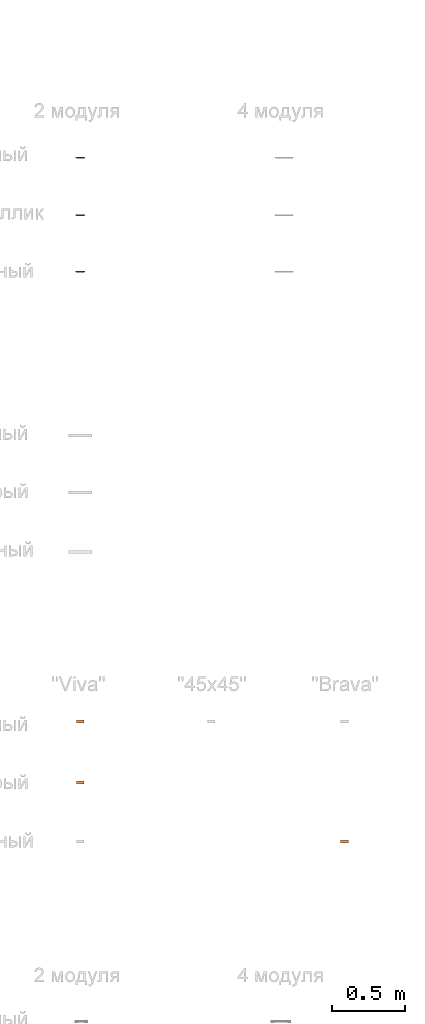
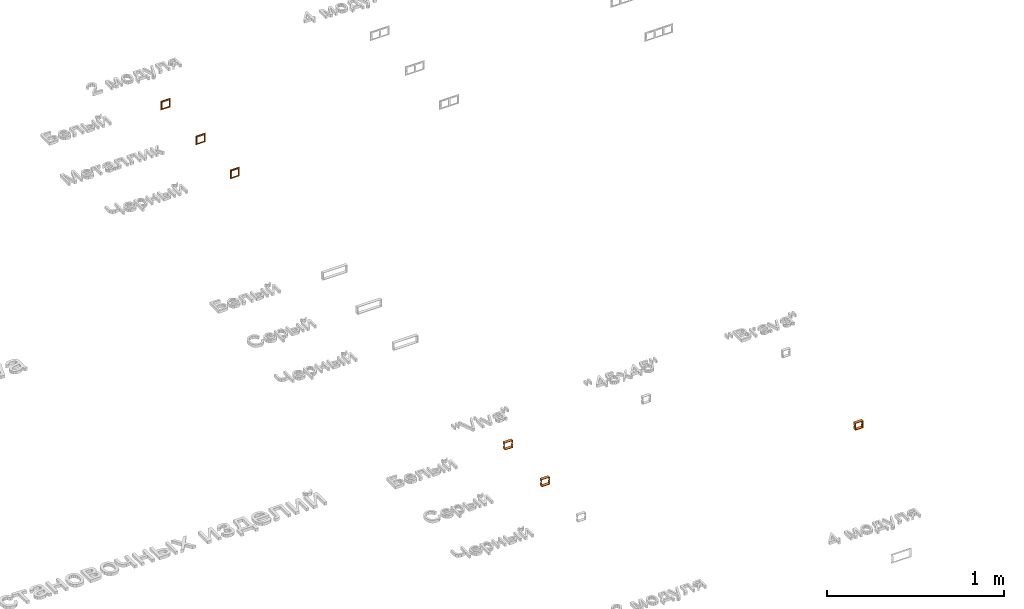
# One storey, part 86 of 87: 6 proxies.
"""IFC2X3 building model written with IfcOpenShell, lengths in millimetres."""

from ifc_helpers import new_model, entity, si_unit, converted_unit, derived_unit, direction, frame, origin, place, context, subcontext, project, spatial, faceted_brep, source, transform, mapped, material, type_object, type_shapes, element, save


model = new_model("IFC2X3")

# Units and contexts
model_context = context("Model", 3, precision=0.01, world=origin(), true_north=direction((6.12303176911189e-17, 1.0)))
body_context = subcontext(model_context, "Body", "Model", "MODEL_VIEW")
ifc_project = project(units=[si_unit("LENGTHUNIT", "METRE", prefix="MILLI"), si_unit("AREAUNIT", "SQUARE_METRE"), si_unit("VOLUMEUNIT", "CUBIC_METRE"), converted_unit("PLANEANGLEUNIT", "DEGREE", entity("IfcRatioMeasure", 0.0174532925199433), si_unit("PLANEANGLEUNIT", "RADIAN"), dimensions=[0, 0, 0, 0, 0, 0, 0]), si_unit("MASSUNIT", "GRAM", prefix="KILO"), derived_unit("MASSDENSITYUNIT", [(si_unit("MASSUNIT", "GRAM", prefix="KILO"), 1), (si_unit("LENGTHUNIT", "METRE"), -3)]), si_unit("TIMEUNIT", "SECOND"), si_unit("FREQUENCYUNIT", "HERTZ"), si_unit("THERMODYNAMICTEMPERATUREUNIT", "DEGREE_CELSIUS"), derived_unit("THERMALTRANSMITTANCEUNIT", [(si_unit("MASSUNIT", "GRAM", prefix="KILO"), 1), (si_unit("THERMODYNAMICTEMPERATUREUNIT", "KELVIN"), -1), (si_unit("TIMEUNIT", "SECOND"), -3)]), derived_unit("VOLUMETRICFLOWRATEUNIT", [(si_unit("LENGTHUNIT", "METRE"), 3), (si_unit("TIMEUNIT", "SECOND"), -1)]), si_unit("ELECTRICCURRENTUNIT", "AMPERE"), si_unit("ELECTRICVOLTAGEUNIT", "VOLT"), si_unit("POWERUNIT", "WATT"), si_unit("FORCEUNIT", "NEWTON", prefix="KILO"), si_unit("ILLUMINANCEUNIT", "LUX"), si_unit("LUMINOUSFLUXUNIT", "LUMEN"), si_unit("LUMINOUSINTENSITYUNIT", "CANDELA"), derived_unit("USERDEFINED", [(si_unit("MASSUNIT", "GRAM", prefix="KILO"), -1), (si_unit("LENGTHUNIT", "METRE"), -2), (si_unit("TIMEUNIT", "SECOND"), 3), (si_unit("LUMINOUSFLUXUNIT", "LUMEN"), 1)]), derived_unit("LINEARVELOCITYUNIT", [(si_unit("LENGTHUNIT", "METRE"), 1), (si_unit("TIMEUNIT", "SECOND"), -1)]), si_unit("PRESSUREUNIT", "PASCAL"), derived_unit("USERDEFINED", [(si_unit("LENGTHUNIT", "METRE"), -2), (si_unit("MASSUNIT", "GRAM", prefix="KILO"), 1), (si_unit("TIMEUNIT", "SECOND"), -2)])], contexts=[model_context])

# Site, building, storey
site_placement = place(None, origin())
site = spatial("IfcSite", under=ifc_project, at=site_placement, Name="Default", CompositionType="ELEMENT")
building_placement = place(site_placement, origin())
building = spatial("IfcBuilding", under=site, at=building_placement, Name="Наименование здания", CompositionType="ELEMENT")
storey_placement = place(building_placement, origin())
storey = spatial("IfcBuildingStorey", under=building, at=storey_placement, Name="Этаж 01", CompositionType="ELEMENT", Elevation=0.0)

# Proxies
ifc_material_1 = material(Name="DKC_Пластик_Белый")
building_element_proxy_type_1 = type_object("IfcBuildingElementProxyType", Name="Viva", PredefinedType="NOTDEFINED", material=ifc_material_1)
shared_shape_1 = source(origin(), body_context, "Body", "Brep", [
    faceted_brep([(-25.0, -11.9782074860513, -4.10000215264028), (-25.0, 0.0, -4.10000215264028), (-26.5, 0.0, -4.10000215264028), (-26.5, -11.9782074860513, -4.10000215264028), (26.5, -11.9782074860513, -4.10000215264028), (26.5, 0.0, -4.10000215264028), (25.0, 0.0, -4.10000215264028), (25.0, -11.9782074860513, -4.10000215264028), (-26.5, -13.039366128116, -3.96029796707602), (-25.0, -13.039366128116, -3.96029796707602), (25.0, -13.039366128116, -3.96029796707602), (26.5, -13.039366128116, -3.96029796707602), (-26.5, -14.0282085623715, -3.55070601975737), (-25.0, -14.0282085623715, -3.55070601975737), (25.0, -14.0282085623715, -3.55070601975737), (26.5, -14.0282085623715, -3.55070601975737), (-25.0, -15.5289135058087, -2.05000107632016), (-25.0, -14.8773468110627, -2.8991393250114), (-26.5, -14.8773468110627, -2.89913932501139), (-26.5, -15.5289135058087, -2.05000107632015), (25.0, -14.8773468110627, -2.8991393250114), (25.0, -15.5289135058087, -2.05000107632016), (26.5, -15.5289135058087, -2.05000107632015), (26.5, -14.8773468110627, -2.89913932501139), (-25.0, -15.9385054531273, -1.06115864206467), (-26.5, -15.9385054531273, -1.06115864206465), (25.0, -15.9385054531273, -1.06115864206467), (26.5, -15.9385054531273, -1.06115864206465), (-26.5, -16.0782096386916, 0.0), (-25.0, -16.0782096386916, 0.0), (25.0, -16.0782096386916, 0.0), (26.5, -16.0782096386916, 0.0), (-25.0, -15.9385054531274, 1.06115864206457), (-26.5, -15.9385054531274, 1.06115864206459), (-26.5, -15.5289135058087, 2.0500010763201), (-25.0, -15.5289135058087, 2.05000107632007), (25.0, -15.9385054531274, 1.06115864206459), (25.0, -15.5289135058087, 2.05000107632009), (26.5, -15.5289135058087, 2.05000107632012), (26.5, -15.9385054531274, 1.06115864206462), (-26.5, -14.8773468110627, 2.89913932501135), (-25.0, -14.8773468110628, 2.89913932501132), (25.0, -14.8773468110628, 2.89913932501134), (26.5, -14.8773468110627, 2.89913932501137), (-25.0, -13.0393661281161, 3.96029796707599), (-25.0, -14.0282085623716, 3.55070601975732), (-26.5, -14.0282085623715, 3.55070601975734), (-26.5, -13.039366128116, 3.96029796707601), (25.0, -14.0282085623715, 3.55070601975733), (25.0, -13.039366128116, 3.960297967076), (26.5, -13.039366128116, 3.96029796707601), (26.5, -14.0282085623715, 3.55070601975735), (-25.0, -11.9782074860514, 4.10000215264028), (-26.5, -11.9782074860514, 4.10000215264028), (25.0, -11.9782074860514, 4.10000215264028), (26.5, -11.9782074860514, 4.10000215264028), (-25.0, 0.0, 4.10000215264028), (-26.5, 0.0, 4.10000215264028), (26.5, 0.0, 4.10000215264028), (25.0, 0.0, 4.10000215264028), (25.0, 0.0, -22.5), (25.0, -20.0, -22.5), (25.0, -20.0, 22.4999999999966), (25.0, 0.0, 22.4999999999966), (-25.0, 0.0, 22.4999999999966), (-25.0, -20.0, 22.4999999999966), (-25.0, -20.0, -22.5), (-25.0, 0.0, -22.5), (26.5, 0.0, 25.0), (26.5, -20.0, 25.0), (26.5, -20.0, -25.0), (26.5, 0.0, -25.0), (-26.5, -20.0, 25.0), (-26.5, 0.0, 25.0), (-26.5, 0.0, -25.0), (-26.5, -20.0, -25.0)], [[[0, 1, 2, 3]], [[4, 5, 6, 7]], [[0, 3, 8, 9]], [[7, 10, 11, 4]], [[9, 8, 12, 13]], [[10, 14, 15, 11]], [[16, 17, 18, 19]], [[20, 21, 22, 23]], [[12, 18, 17, 13]], [[14, 20, 23, 15]], [[24, 16, 19, 25]], [[21, 26, 27, 22]], [[28, 29, 24, 25]], [[26, 30, 31, 27]], [[32, 33, 34, 35]], [[36, 37, 38, 39]], [[35, 34, 40, 41]], [[37, 42, 43, 38]], [[44, 45, 46, 47]], [[48, 49, 50, 51]], [[40, 46, 45, 41]], [[42, 48, 51, 43]], [[52, 44, 47, 53]], [[49, 54, 55, 50]], [[32, 29, 28, 33]], [[39, 31, 30, 36]], [[56, 52, 53, 57]], [[58, 55, 54, 59]], [[48, 42, 37, 36, 30, 26, 21, 20, 14, 10, 7, 6, 60, 61, 62, 63, 59, 54, 49]], [[13, 17, 16, 24, 29, 32, 35, 41, 45, 44, 52, 56, 64, 65, 66, 67, 1, 0, 9]], [[64, 63, 62, 65]], [[66, 61, 60, 67]], [[58, 68, 69, 70, 71, 5, 4, 11, 15, 23, 22, 27, 31, 39, 38, 43, 51, 50, 55]], [[72, 73, 57, 53, 47, 46, 40, 34, 33, 28, 25, 19, 18, 12, 8, 3, 2, 74, 75]], [[69, 68, 73, 72]], [[69, 62, 61]], [[62, 69, 65]], [[61, 70, 69]], [[72, 65, 69]], [[65, 72, 66]], [[75, 66, 72]], [[66, 75, 70]], [[70, 61, 66]], [[71, 70, 75, 74]], [[71, 74, 2, 1, 67, 60, 6, 5]], [[58, 59, 63, 64, 56, 57, 73, 68]]]),
])
type_shapes(building_element_proxy_type_1, [shared_shape_1])
proxy_1_placement = place(storey_placement, frame((77296.5462784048, -5568.3806616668, 0.0)))
element("IfcBuildingElementProxy", 1, at=proxy_1_placement, inside=storey, type_object=building_element_proxy_type_1, material=ifc_material_1, Name="КНС_КаркасНа2МодуляДляМонтажаЭлектроустановочныхИзделий_ILF_DKC:Viva", ObjectType="Viva", context=body_context, shape_type="MappedRepresentation", body=[
    mapped(shared_shape_1, transform((0.0, 0.0, 0.0), scale=1.0)),
])
building_element_proxy_type_2 = type_object("IfcBuildingElementProxyType", Name="2 модуля", PredefinedType="NOTDEFINED", material=ifc_material_1)
shared_shape_2 = source(origin(), body_context, "Body", "Brep", [
    faceted_brep([(22.4999999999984, 0.0, 22.4999999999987), (22.4999999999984, 0.0, -22.499999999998), (22.4999999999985, -7.0, -22.499999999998), (22.4999999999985, -7.0, -1.57907206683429), (22.4999999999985, -7.0, 22.4999999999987), (24.5583186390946, -6.82449538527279, 24.5583186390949), (26.2634468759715, -6.39443641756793, 1.87649931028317), (26.5134245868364, -6.30678207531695, 26.5134245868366), (24.5583186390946, -6.82449538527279, -24.5583186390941), (26.5134245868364, -6.30678207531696, -26.5134245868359), (29.3939057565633, -4.66720571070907, -2.19219521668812e-07), (28.2672806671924, -5.47282037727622, 28.2672806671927), (31.7499999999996, 0.0, -7.67093312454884), (31.7499999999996, 0.0, 31.7499999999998), (31.5180831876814, -1.55764653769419, 31.5180831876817), (31.5180831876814, -1.55764653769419, -31.5180831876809), (31.7499999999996, 0.0, -31.7499999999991), (28.2672806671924, -5.47282037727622, -28.267280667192), (29.7319412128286, -4.36442861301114, -29.7319412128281), (30.8339620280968, -3.03718617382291, -30.8339620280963), (30.8339620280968, -3.03718617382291, 30.8339620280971), (29.7319412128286, -4.36442861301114, 29.7319412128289), (-22.5000000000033, 0.0, -22.499999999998), (-22.5000000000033, -7.0, -22.499999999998), (-1.5790720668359, -7.0, -22.499999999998), (1.87649931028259, -6.39443641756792, -26.263446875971), (-24.5583186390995, -6.82449538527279, -24.5583186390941), (-26.5134245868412, -6.30678207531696, -26.5134245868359), (-2.19222338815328e-07, -4.66720571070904, -29.3939057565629), (-7.67092629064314, 0.0, -31.7499999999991), (-31.5180831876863, -1.55764653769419, -31.5180831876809), (-31.7500000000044, 0.0, -31.7499999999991), (-28.2672806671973, -5.47282037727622, -28.267280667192), (-29.7319412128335, -4.36442861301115, -29.7319412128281), (-30.8339620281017, -3.03718617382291, -30.8339620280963), (-22.5000000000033, 0.0, 22.4999999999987), (-22.5000000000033, -7.0, 22.4999999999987), (-22.5000000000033, -7.0, 1.57907206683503), (-26.2634468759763, -6.39443641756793, -1.8764993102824), (-24.5583186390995, -6.82449538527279, 24.5583186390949), (-26.5134245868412, -6.30678207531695, 26.5134245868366), (-29.3939057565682, -4.66720571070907, 2.19220274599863e-07), (-31.7500000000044, 0.0, 7.67092629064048), (-31.5180831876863, -1.55764653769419, 31.5180831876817), (-31.7500000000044, 0.0, 31.7499999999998), (-28.2672806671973, -5.47282037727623, 28.2672806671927), (-29.7319412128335, -4.36442861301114, 29.7319412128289), (-30.8339620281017, -3.03718617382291, 30.8339620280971), (7.67092888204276, 0.0, 31.7499999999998), (1.57907206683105, -7.0, 22.4999999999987), (-1.87649931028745, -6.39443641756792, 26.2634468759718), (2.19217465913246e-07, -4.66720571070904, 29.3939057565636)], [[[0, 1, 2, 3, 4]], [[5, 6, 7]], [[8, 9, 6]], [[10, 11, 6]], [[12, 13, 14]], [[15, 16, 12]], [[4, 3, 5]], [[8, 3, 2]], [[10, 17, 18]], [[8, 6, 3]], [[17, 10, 6]], [[10, 19, 12]], [[12, 20, 10]], [[12, 14, 20]], [[19, 15, 12]], [[6, 9, 17]], [[10, 18, 19]], [[21, 10, 20]], [[3, 6, 5]], [[11, 10, 21]], [[7, 6, 11]], [[1, 22, 23, 24, 2]], [[8, 25, 9]], [[26, 27, 25]], [[28, 17, 25]], [[29, 16, 15]], [[30, 31, 29]], [[2, 24, 8]], [[26, 24, 23]], [[28, 32, 33]], [[26, 25, 24]], [[32, 28, 25]], [[28, 34, 29]], [[29, 19, 28]], [[29, 15, 19]], [[34, 30, 29]], [[25, 27, 32]], [[28, 33, 34]], [[18, 28, 19]], [[24, 25, 8]], [[17, 28, 18]], [[9, 25, 17]], [[22, 35, 36, 37, 23]], [[26, 38, 27]], [[39, 40, 38]], [[41, 32, 38]], [[42, 31, 30]], [[43, 44, 42]], [[23, 37, 26]], [[39, 37, 36]], [[41, 45, 46]], [[39, 38, 37]], [[45, 41, 38]], [[41, 47, 42]], [[42, 34, 41]], [[42, 30, 34]], [[47, 43, 42]], [[38, 40, 45]], [[41, 46, 47]], [[33, 41, 34]], [[37, 38, 26]], [[32, 41, 33]], [[27, 38, 32]], [[44, 35, 22]], [[35, 44, 0]], [[0, 44, 48]], [[22, 42, 44]], [[0, 48, 13]], [[0, 13, 1]], [[1, 13, 12]], [[1, 12, 16]], [[1, 16, 29]], [[1, 29, 31]], [[31, 22, 1]], [[22, 31, 42]], [[35, 0, 4, 49, 36]], [[39, 50, 40]], [[5, 7, 50]], [[51, 45, 50]], [[48, 44, 43]], [[14, 13, 48]], [[36, 49, 39]], [[5, 49, 4]], [[51, 11, 21]], [[5, 50, 49]], [[11, 51, 50]], [[51, 20, 48]], [[48, 47, 51]], [[48, 43, 47]], [[20, 14, 48]], [[50, 7, 11]], [[51, 21, 20]], [[46, 51, 47]], [[49, 50, 39]], [[45, 51, 46]], [[40, 50, 45]]]),
])
type_shapes(building_element_proxy_type_2, [shared_shape_2])
proxy_2_placement = place(storey_placement, frame((77296.5462784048, -1700.33504459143, 0.0)))
element("IfcBuildingElementProxy", 2, at=proxy_2_placement, inside=storey, type_object=building_element_proxy_type_2, material=ifc_material_1, Name="КНС_Рамка-суппортAvantiДляЭлектроустановочныхИзделий_ILF_DKC:2 модуля", ObjectType="2 модуля", context=body_context, shape_type="MappedRepresentation", body=[
    mapped(shared_shape_2, transform((0.0, 0.0, 0.0), scale=1.0)),
])
ifc_material_2 = material(Name="DKC_Пластик_СерыйМеталлик")
building_element_proxy_type_3 = type_object("IfcBuildingElementProxyType", Name="2 модуля", PredefinedType="NOTDEFINED", material=ifc_material_2)
shared_shape_3 = source(origin(), body_context, "Body", "Brep", [
    faceted_brep([(22.4999999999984, 0.0, 22.4999999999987), (22.4999999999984, 0.0, -22.499999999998), (22.4999999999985, -7.0, -22.499999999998), (22.4999999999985, -7.0, -1.57907206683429), (22.4999999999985, -7.0, 22.4999999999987), (24.5583186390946, -6.82449538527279, 24.5583186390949), (26.2634468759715, -6.39443641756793, 1.87649931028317), (26.5134245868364, -6.30678207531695, 26.5134245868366), (24.5583186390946, -6.82449538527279, -24.5583186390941), (26.5134245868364, -6.30678207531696, -26.5134245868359), (29.3939057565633, -4.66720571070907, -2.19219521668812e-07), (28.2672806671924, -5.47282037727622, 28.2672806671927), (31.7499999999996, 0.0, -7.67093312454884), (31.7499999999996, 0.0, 31.7499999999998), (31.5180831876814, -1.55764653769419, 31.5180831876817), (31.5180831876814, -1.55764653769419, -31.5180831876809), (31.7499999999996, 0.0, -31.7499999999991), (28.2672806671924, -5.47282037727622, -28.267280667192), (29.7319412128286, -4.36442861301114, -29.7319412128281), (30.8339620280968, -3.03718617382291, -30.8339620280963), (30.8339620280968, -3.03718617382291, 30.8339620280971), (29.7319412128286, -4.36442861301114, 29.7319412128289), (-22.5000000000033, 0.0, -22.499999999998), (-22.5000000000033, -7.0, -22.499999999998), (-1.5790720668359, -7.0, -22.499999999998), (1.87649931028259, -6.39443641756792, -26.263446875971), (-24.5583186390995, -6.82449538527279, -24.5583186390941), (-26.5134245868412, -6.30678207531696, -26.5134245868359), (-2.19222338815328e-07, -4.66720571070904, -29.3939057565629), (-7.67092629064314, 0.0, -31.7499999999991), (-31.5180831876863, -1.55764653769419, -31.5180831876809), (-31.7500000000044, 0.0, -31.7499999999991), (-28.2672806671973, -5.47282037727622, -28.267280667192), (-29.7319412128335, -4.36442861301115, -29.7319412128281), (-30.8339620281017, -3.03718617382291, -30.8339620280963), (-22.5000000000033, 0.0, 22.4999999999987), (-22.5000000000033, -7.0, 22.4999999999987), (-22.5000000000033, -7.0, 1.57907206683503), (-26.2634468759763, -6.39443641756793, -1.8764993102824), (-24.5583186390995, -6.82449538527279, 24.5583186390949), (-26.5134245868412, -6.30678207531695, 26.5134245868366), (-29.3939057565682, -4.66720571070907, 2.19220274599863e-07), (-31.7500000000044, 0.0, 7.67092629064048), (-31.5180831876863, -1.55764653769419, 31.5180831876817), (-31.7500000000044, 0.0, 31.7499999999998), (-28.2672806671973, -5.47282037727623, 28.2672806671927), (-29.7319412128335, -4.36442861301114, 29.7319412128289), (-30.8339620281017, -3.03718617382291, 30.8339620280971), (7.67092888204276, 0.0, 31.7499999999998), (1.57907206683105, -7.0, 22.4999999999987), (-1.87649931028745, -6.39443641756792, 26.2634468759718), (2.19217465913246e-07, -4.66720571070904, 29.3939057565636)], [[[0, 1, 2, 3, 4]], [[5, 6, 7]], [[8, 9, 6]], [[10, 11, 6]], [[12, 13, 14]], [[15, 16, 12]], [[4, 3, 5]], [[8, 3, 2]], [[10, 17, 18]], [[8, 6, 3]], [[17, 10, 6]], [[10, 19, 12]], [[12, 20, 10]], [[12, 14, 20]], [[19, 15, 12]], [[6, 9, 17]], [[10, 18, 19]], [[21, 10, 20]], [[3, 6, 5]], [[11, 10, 21]], [[7, 6, 11]], [[1, 22, 23, 24, 2]], [[8, 25, 9]], [[26, 27, 25]], [[28, 17, 25]], [[29, 16, 15]], [[30, 31, 29]], [[2, 24, 8]], [[26, 24, 23]], [[28, 32, 33]], [[26, 25, 24]], [[32, 28, 25]], [[28, 34, 29]], [[29, 19, 28]], [[29, 15, 19]], [[34, 30, 29]], [[25, 27, 32]], [[28, 33, 34]], [[18, 28, 19]], [[24, 25, 8]], [[17, 28, 18]], [[9, 25, 17]], [[22, 35, 36, 37, 23]], [[26, 38, 27]], [[39, 40, 38]], [[41, 32, 38]], [[42, 31, 30]], [[43, 44, 42]], [[23, 37, 26]], [[39, 37, 36]], [[41, 45, 46]], [[39, 38, 37]], [[45, 41, 38]], [[41, 47, 42]], [[42, 34, 41]], [[42, 30, 34]], [[47, 43, 42]], [[38, 40, 45]], [[41, 46, 47]], [[33, 41, 34]], [[37, 38, 26]], [[32, 41, 33]], [[27, 38, 32]], [[44, 35, 22]], [[35, 44, 0]], [[0, 44, 48]], [[22, 42, 44]], [[0, 48, 13]], [[0, 13, 1]], [[1, 13, 12]], [[1, 12, 16]], [[1, 16, 29]], [[1, 29, 31]], [[31, 22, 1]], [[22, 31, 42]], [[35, 0, 4, 49, 36]], [[39, 50, 40]], [[5, 7, 50]], [[51, 45, 50]], [[48, 44, 43]], [[14, 13, 48]], [[36, 49, 39]], [[5, 49, 4]], [[51, 11, 21]], [[5, 50, 49]], [[11, 51, 50]], [[51, 20, 48]], [[48, 47, 51]], [[48, 43, 47]], [[20, 14, 48]], [[50, 7, 11]], [[51, 21, 20]], [[46, 51, 47]], [[49, 50, 39]], [[45, 51, 46]], [[40, 50, 45]]]),
])
type_shapes(building_element_proxy_type_3, [shared_shape_3])
proxy_3_placement = place(storey_placement, frame((77296.5462784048, -2096.57288074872, 0.0)))
element("IfcBuildingElementProxy", 3, at=proxy_3_placement, inside=storey, type_object=building_element_proxy_type_3, material=ifc_material_2, Name="КНС_Рамка-суппортAvantiДляЭлектроустановочныхИзделий_ILF_DKC:2 модуля", ObjectType="2 модуля", context=body_context, shape_type="MappedRepresentation", body=[
    mapped(shared_shape_3, transform((0.0, 0.0, 0.0), scale=1.0)),
])
ifc_material_3 = material(Name="DKC_Пластик_Серо-черный")
building_element_proxy_type_4 = type_object("IfcBuildingElementProxyType", Name="2 модуля", PredefinedType="NOTDEFINED", material=ifc_material_3)
shared_shape_4 = source(origin(), body_context, "Body", "Brep", [
    faceted_brep([(22.4999999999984, 0.0, 22.4999999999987), (22.4999999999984, 0.0, -22.499999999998), (22.4999999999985, -7.0, -22.499999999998), (22.4999999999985, -7.0, -1.57907206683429), (22.4999999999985, -7.0, 22.4999999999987), (24.5583186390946, -6.82449538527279, 24.5583186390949), (26.2634468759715, -6.39443641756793, 1.87649931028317), (26.5134245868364, -6.30678207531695, 26.5134245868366), (24.5583186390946, -6.82449538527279, -24.5583186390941), (26.5134245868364, -6.30678207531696, -26.5134245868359), (29.3939057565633, -4.66720571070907, -2.19219521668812e-07), (28.2672806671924, -5.47282037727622, 28.2672806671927), (31.7499999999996, 0.0, -7.67093312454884), (31.7499999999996, 0.0, 31.7499999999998), (31.5180831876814, -1.55764653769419, 31.5180831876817), (31.5180831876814, -1.55764653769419, -31.5180831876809), (31.7499999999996, 0.0, -31.7499999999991), (28.2672806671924, -5.47282037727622, -28.267280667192), (29.7319412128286, -4.36442861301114, -29.7319412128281), (30.8339620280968, -3.03718617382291, -30.8339620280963), (30.8339620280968, -3.03718617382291, 30.8339620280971), (29.7319412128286, -4.36442861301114, 29.7319412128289), (-22.5000000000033, 0.0, -22.499999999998), (-22.5000000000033, -7.0, -22.499999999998), (-1.5790720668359, -7.0, -22.499999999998), (1.87649931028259, -6.39443641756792, -26.263446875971), (-24.5583186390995, -6.82449538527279, -24.5583186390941), (-26.5134245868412, -6.30678207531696, -26.5134245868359), (-2.19222338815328e-07, -4.66720571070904, -29.3939057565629), (-7.67092629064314, 0.0, -31.7499999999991), (-31.5180831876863, -1.55764653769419, -31.5180831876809), (-31.7500000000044, 0.0, -31.7499999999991), (-28.2672806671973, -5.47282037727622, -28.267280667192), (-29.7319412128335, -4.36442861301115, -29.7319412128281), (-30.8339620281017, -3.03718617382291, -30.8339620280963), (-22.5000000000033, 0.0, 22.4999999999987), (-22.5000000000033, -7.0, 22.4999999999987), (-22.5000000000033, -7.0, 1.57907206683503), (-26.2634468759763, -6.39443641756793, -1.8764993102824), (-24.5583186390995, -6.82449538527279, 24.5583186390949), (-26.5134245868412, -6.30678207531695, 26.5134245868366), (-29.3939057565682, -4.66720571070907, 2.19220274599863e-07), (-31.7500000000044, 0.0, 7.67092629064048), (-31.5180831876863, -1.55764653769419, 31.5180831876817), (-31.7500000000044, 0.0, 31.7499999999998), (-28.2672806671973, -5.47282037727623, 28.2672806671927), (-29.7319412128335, -4.36442861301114, 29.7319412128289), (-30.8339620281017, -3.03718617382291, 30.8339620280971), (7.67092888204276, 0.0, 31.7499999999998), (1.57907206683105, -7.0, 22.4999999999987), (-1.87649931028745, -6.39443641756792, 26.2634468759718), (2.19217465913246e-07, -4.66720571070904, 29.3939057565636)], [[[0, 1, 2, 3, 4]], [[5, 6, 7]], [[8, 9, 6]], [[10, 11, 6]], [[12, 13, 14]], [[15, 16, 12]], [[4, 3, 5]], [[8, 3, 2]], [[10, 17, 18]], [[8, 6, 3]], [[17, 10, 6]], [[10, 19, 12]], [[12, 20, 10]], [[12, 14, 20]], [[19, 15, 12]], [[6, 9, 17]], [[10, 18, 19]], [[21, 10, 20]], [[3, 6, 5]], [[11, 10, 21]], [[7, 6, 11]], [[1, 22, 23, 24, 2]], [[8, 25, 9]], [[26, 27, 25]], [[28, 17, 25]], [[29, 16, 15]], [[30, 31, 29]], [[2, 24, 8]], [[26, 24, 23]], [[28, 32, 33]], [[26, 25, 24]], [[32, 28, 25]], [[28, 34, 29]], [[29, 19, 28]], [[29, 15, 19]], [[34, 30, 29]], [[25, 27, 32]], [[28, 33, 34]], [[18, 28, 19]], [[24, 25, 8]], [[17, 28, 18]], [[9, 25, 17]], [[22, 35, 36, 37, 23]], [[26, 38, 27]], [[39, 40, 38]], [[41, 32, 38]], [[42, 31, 30]], [[43, 44, 42]], [[23, 37, 26]], [[39, 37, 36]], [[41, 45, 46]], [[39, 38, 37]], [[45, 41, 38]], [[41, 47, 42]], [[42, 34, 41]], [[42, 30, 34]], [[47, 43, 42]], [[38, 40, 45]], [[41, 46, 47]], [[33, 41, 34]], [[37, 38, 26]], [[32, 41, 33]], [[27, 38, 32]], [[44, 35, 22]], [[35, 44, 0]], [[0, 44, 48]], [[22, 42, 44]], [[0, 48, 13]], [[0, 13, 1]], [[1, 13, 12]], [[1, 12, 16]], [[1, 16, 29]], [[1, 29, 31]], [[31, 22, 1]], [[22, 31, 42]], [[35, 0, 4, 49, 36]], [[39, 50, 40]], [[5, 7, 50]], [[51, 45, 50]], [[48, 44, 43]], [[14, 13, 48]], [[36, 49, 39]], [[5, 49, 4]], [[51, 11, 21]], [[5, 50, 49]], [[11, 51, 50]], [[51, 20, 48]], [[48, 47, 51]], [[48, 43, 47]], [[20, 14, 48]], [[50, 7, 11]], [[51, 21, 20]], [[46, 51, 47]], [[49, 50, 39]], [[45, 51, 46]], [[40, 50, 45]]]),
])
type_shapes(building_element_proxy_type_4, [shared_shape_4])
proxy_4_placement = place(storey_placement, frame((77296.5462784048, -2484.10219303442, 0.0)))
element("IfcBuildingElementProxy", 4, at=proxy_4_placement, inside=storey, type_object=building_element_proxy_type_4, material=ifc_material_3, Name="КНС_Рамка-суппортAvantiДляЭлектроустановочныхИзделий_ILF_DKC:2 модуля", ObjectType="2 модуля", context=body_context, shape_type="MappedRepresentation", body=[
    mapped(shared_shape_4, transform((0.0, 0.0, 0.0), scale=1.0)),
])
building_element_proxy_type_5 = type_object("IfcBuildingElementProxyType", Name="Viva", PredefinedType="NOTDEFINED", material=ifc_material_2)
shared_shape_5 = source(origin(), body_context, "Body", "Brep", [
    faceted_brep([(-25.0, -11.9782074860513, -4.10000215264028), (-25.0, 0.0, -4.10000215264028), (-26.5, 0.0, -4.10000215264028), (-26.5, -11.9782074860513, -4.10000215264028), (26.5, -11.9782074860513, -4.10000215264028), (26.5, 0.0, -4.10000215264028), (25.0, 0.0, -4.10000215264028), (25.0, -11.9782074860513, -4.10000215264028), (-26.5, -13.039366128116, -3.96029796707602), (-25.0, -13.039366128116, -3.96029796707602), (25.0, -13.039366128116, -3.96029796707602), (26.5, -13.039366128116, -3.96029796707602), (-26.5, -14.0282085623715, -3.55070601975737), (-25.0, -14.0282085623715, -3.55070601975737), (25.0, -14.0282085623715, -3.55070601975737), (26.5, -14.0282085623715, -3.55070601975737), (-25.0, -15.5289135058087, -2.05000107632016), (-25.0, -14.8773468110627, -2.8991393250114), (-26.5, -14.8773468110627, -2.89913932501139), (-26.5, -15.5289135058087, -2.05000107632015), (25.0, -14.8773468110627, -2.8991393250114), (25.0, -15.5289135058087, -2.05000107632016), (26.5, -15.5289135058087, -2.05000107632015), (26.5, -14.8773468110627, -2.89913932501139), (-25.0, -15.9385054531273, -1.06115864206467), (-26.5, -15.9385054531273, -1.06115864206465), (25.0, -15.9385054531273, -1.06115864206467), (26.5, -15.9385054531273, -1.06115864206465), (-26.5, -16.0782096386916, 0.0), (-25.0, -16.0782096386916, 0.0), (25.0, -16.0782096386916, 0.0), (26.5, -16.0782096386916, 0.0), (-25.0, -15.9385054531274, 1.06115864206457), (-26.5, -15.9385054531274, 1.06115864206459), (-26.5, -15.5289135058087, 2.0500010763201), (-25.0, -15.5289135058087, 2.05000107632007), (25.0, -15.9385054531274, 1.06115864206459), (25.0, -15.5289135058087, 2.05000107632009), (26.5, -15.5289135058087, 2.05000107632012), (26.5, -15.9385054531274, 1.06115864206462), (-26.5, -14.8773468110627, 2.89913932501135), (-25.0, -14.8773468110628, 2.89913932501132), (25.0, -14.8773468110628, 2.89913932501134), (26.5, -14.8773468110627, 2.89913932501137), (-25.0, -13.0393661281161, 3.96029796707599), (-25.0, -14.0282085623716, 3.55070601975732), (-26.5, -14.0282085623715, 3.55070601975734), (-26.5, -13.039366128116, 3.96029796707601), (25.0, -14.0282085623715, 3.55070601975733), (25.0, -13.039366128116, 3.960297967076), (26.5, -13.039366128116, 3.96029796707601), (26.5, -14.0282085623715, 3.55070601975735), (-25.0, -11.9782074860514, 4.10000215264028), (-26.5, -11.9782074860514, 4.10000215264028), (25.0, -11.9782074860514, 4.10000215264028), (26.5, -11.9782074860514, 4.10000215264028), (-25.0, 0.0, 4.10000215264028), (-26.5, 0.0, 4.10000215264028), (26.5, 0.0, 4.10000215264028), (25.0, 0.0, 4.10000215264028), (25.0, 0.0, -22.5), (25.0, -20.0, -22.5), (25.0, -20.0, 22.4999999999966), (25.0, 0.0, 22.4999999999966), (-25.0, 0.0, 22.4999999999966), (-25.0, -20.0, 22.4999999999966), (-25.0, -20.0, -22.5), (-25.0, 0.0, -22.5), (26.5, 0.0, 25.0), (26.5, -20.0, 25.0), (26.5, -20.0, -25.0), (26.5, 0.0, -25.0), (-26.5, -20.0, 25.0), (-26.5, 0.0, 25.0), (-26.5, 0.0, -25.0), (-26.5, -20.0, -25.0)], [[[0, 1, 2, 3]], [[4, 5, 6, 7]], [[0, 3, 8, 9]], [[7, 10, 11, 4]], [[9, 8, 12, 13]], [[10, 14, 15, 11]], [[16, 17, 18, 19]], [[20, 21, 22, 23]], [[12, 18, 17, 13]], [[14, 20, 23, 15]], [[24, 16, 19, 25]], [[21, 26, 27, 22]], [[28, 29, 24, 25]], [[26, 30, 31, 27]], [[32, 33, 34, 35]], [[36, 37, 38, 39]], [[35, 34, 40, 41]], [[37, 42, 43, 38]], [[44, 45, 46, 47]], [[48, 49, 50, 51]], [[40, 46, 45, 41]], [[42, 48, 51, 43]], [[52, 44, 47, 53]], [[49, 54, 55, 50]], [[32, 29, 28, 33]], [[39, 31, 30, 36]], [[56, 52, 53, 57]], [[58, 55, 54, 59]], [[48, 42, 37, 36, 30, 26, 21, 20, 14, 10, 7, 6, 60, 61, 62, 63, 59, 54, 49]], [[13, 17, 16, 24, 29, 32, 35, 41, 45, 44, 52, 56, 64, 65, 66, 67, 1, 0, 9]], [[64, 63, 62, 65]], [[66, 61, 60, 67]], [[58, 68, 69, 70, 71, 5, 4, 11, 15, 23, 22, 27, 31, 39, 38, 43, 51, 50, 55]], [[72, 73, 57, 53, 47, 46, 40, 34, 33, 28, 25, 19, 18, 12, 8, 3, 2, 74, 75]], [[69, 68, 73, 72]], [[69, 62, 61]], [[62, 69, 65]], [[61, 70, 69]], [[72, 65, 69]], [[65, 72, 66]], [[75, 66, 72]], [[66, 75, 70]], [[70, 61, 66]], [[71, 70, 75, 74]], [[71, 74, 2, 1, 67, 60, 6, 5]], [[58, 59, 63, 64, 56, 57, 73, 68]]]),
])
type_shapes(building_element_proxy_type_5, [shared_shape_5])
proxy_5_placement = place(storey_placement, frame((77296.5462784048, -5986.38980750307, 0.0)))
element("IfcBuildingElementProxy", 5, at=proxy_5_placement, inside=storey, type_object=building_element_proxy_type_5, material=ifc_material_2, Name="КНС_КаркасНа2МодуляДляМонтажаЭлектроустановочныхИзделий_ILF_DKC:Viva", ObjectType="Viva", context=body_context, shape_type="MappedRepresentation", body=[
    mapped(shared_shape_5, transform((0.0, 0.0, 0.0), scale=1.0)),
])
building_element_proxy_type_6 = type_object("IfcBuildingElementProxyType", Name="Brava", PredefinedType="NOTDEFINED", material=ifc_material_3)
shared_shape_6 = source(origin(), body_context, "Body", "Brep", [
    faceted_brep([(-21.5, -11.9782074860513, -4.10000215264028), (-21.5, 0.0, -4.10000215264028), (-26.5, 0.0, -4.10000215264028), (-26.5, -11.9782074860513, -4.10000215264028), (26.5, -11.9782074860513, -4.10000215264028), (26.5, 0.0, -4.10000215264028), (21.5, 0.0, -4.10000215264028), (21.5, -11.9782074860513, -4.10000215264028), (-26.5, -13.039366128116, -3.96029796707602), (-21.5, -13.039366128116, -3.96029796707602), (26.5, -13.039366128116, -3.96029796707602), (21.5, -13.039366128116, -3.96029796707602), (-26.5, -14.0282085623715, -3.55070601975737), (-21.5, -14.0282085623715, -3.55070601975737), (21.5, -14.0282085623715, -3.55070601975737), (26.5, -14.0282085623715, -3.55070601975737), (-21.5, -15.5289135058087, -2.05000107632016), (-21.5, -14.8773468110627, -2.8991393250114), (-26.5, -14.8773468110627, -2.89913932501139), (-26.5, -15.5289135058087, -2.05000107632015), (26.5, -15.5289135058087, -2.05000107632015), (26.5, -14.8773468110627, -2.89913932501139), (21.5, -14.8773468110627, -2.8991393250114), (21.5, -15.5289135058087, -2.05000107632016), (-21.5, -15.9385054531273, -1.06115864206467), (-26.5, -15.9385054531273, -1.06115864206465), (26.5, -15.9385054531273, -1.06115864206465), (21.5, -15.9385054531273, -1.06115864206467), (-26.5, -16.0782096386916, 0.0), (-21.5, -16.0782096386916, 0.0), (21.5, -16.0782096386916, 0.0), (26.5, -16.0782096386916, 0.0), (-21.5, -15.9385054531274, 1.06115864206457), (-26.5, -15.9385054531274, 1.06115864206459), (-26.5, -15.5289135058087, 2.0500010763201), (-21.5, -15.5289135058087, 2.05000107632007), (26.5, -15.5289135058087, 2.05000107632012), (26.5, -15.9385054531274, 1.06115864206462), (21.5, -15.9385054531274, 1.06115864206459), (21.5, -15.5289135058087, 2.05000107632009), (-26.5, -14.8773468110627, 2.89913932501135), (-21.5, -14.8773468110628, 2.89913932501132), (21.5, -14.8773468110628, 2.89913932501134), (26.5, -14.8773468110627, 2.89913932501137), (-21.5, -13.0393661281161, 3.96029796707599), (-21.5, -14.0282085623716, 3.55070601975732), (-26.5, -14.0282085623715, 3.55070601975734), (-26.5, -13.039366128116, 3.96029796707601), (26.5, -13.039366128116, 3.96029796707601), (26.5, -14.0282085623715, 3.55070601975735), (21.5, -14.0282085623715, 3.55070601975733), (21.5, -13.039366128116, 3.960297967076), (-21.5, -11.9782074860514, 4.10000215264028), (-26.5, -11.9782074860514, 4.10000215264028), (26.5, -11.9782074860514, 4.10000215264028), (21.5, -11.9782074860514, 4.10000215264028), (-21.5, 0.0, 4.10000215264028), (-26.5, 0.0, 4.10000215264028), (26.5, 0.0, 4.10000215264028), (21.5, 0.0, 4.10000215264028), (21.5, 0.0, -21.4999999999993), (21.5, -20.0, -21.4999999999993), (21.5, -20.0, 21.499999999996), (21.5, 0.0, 21.499999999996), (-21.5, 0.0, 21.499999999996), (-21.5, -20.0, 21.499999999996), (-21.5, -20.0, -21.4999999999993), (-21.5, 0.0, -21.4999999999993), (26.5, 0.0, 25.0), (26.5, -20.0, 25.0), (26.5, -20.0, -25.0), (26.5, 0.0, -25.0), (-26.5, -20.0, 25.0), (-26.5, 0.0, 25.0), (-26.5, 0.0, -25.0), (-26.5, -20.0, -25.0)], [[[0, 1, 2, 3]], [[4, 5, 6, 7]], [[0, 3, 8, 9]], [[10, 4, 7, 11]], [[9, 8, 12, 13]], [[10, 11, 14, 15]], [[16, 17, 18, 19]], [[20, 21, 22, 23]], [[12, 18, 17, 13]], [[14, 22, 21, 15]], [[24, 16, 19, 25]], [[26, 20, 23, 27]], [[28, 29, 24, 25]], [[27, 30, 31, 26]], [[32, 33, 34, 35]], [[36, 37, 38, 39]], [[35, 34, 40, 41]], [[36, 39, 42, 43]], [[44, 45, 46, 47]], [[48, 49, 50, 51]], [[40, 46, 45, 41]], [[42, 50, 49, 43]], [[52, 44, 47, 53]], [[54, 48, 51, 55]], [[32, 29, 28, 33]], [[37, 31, 30, 38]], [[56, 52, 53, 57]], [[58, 54, 55, 59]], [[50, 42, 39, 38, 30, 27, 23, 22, 14, 11, 7, 6, 60, 61, 62, 63, 59, 55, 51]], [[13, 17, 16, 24, 29, 32, 35, 41, 45, 44, 52, 56, 64, 65, 66, 67, 1, 0, 9]], [[64, 63, 62, 65]], [[66, 61, 60, 67]], [[58, 68, 69, 70, 71, 5, 4, 10, 15, 21, 20, 26, 31, 37, 36, 43, 49, 48, 54]], [[72, 73, 57, 53, 47, 46, 40, 34, 33, 28, 25, 19, 18, 12, 8, 3, 2, 74, 75]], [[69, 68, 73, 72]], [[69, 62, 61]], [[62, 69, 65]], [[61, 70, 69]], [[72, 65, 69]], [[65, 72, 66]], [[75, 66, 72]], [[66, 75, 70]], [[70, 61, 66]], [[71, 70, 75, 74]], [[71, 74, 2, 1, 67, 60, 6, 5]], [[58, 59, 63, 64, 56, 57, 73, 68]]]),
])
type_shapes(building_element_proxy_type_6, [shared_shape_6])
proxy_6_placement = place(storey_placement, frame((79110.5043710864, -6391.33616753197, 0.0)))
element("IfcBuildingElementProxy", 6, at=proxy_6_placement, inside=storey, type_object=building_element_proxy_type_6, material=ifc_material_3, Name="КНС_КаркасНа2МодуляДляМонтажаЭлектроустановочныхИзделий_ILF_DKC:Brava", ObjectType="Brava", context=body_context, shape_type="MappedRepresentation", body=[
    mapped(shared_shape_6, transform((0.0, 0.0, 0.0), scale=1.0)),
])

save(model, "model.ifc")
